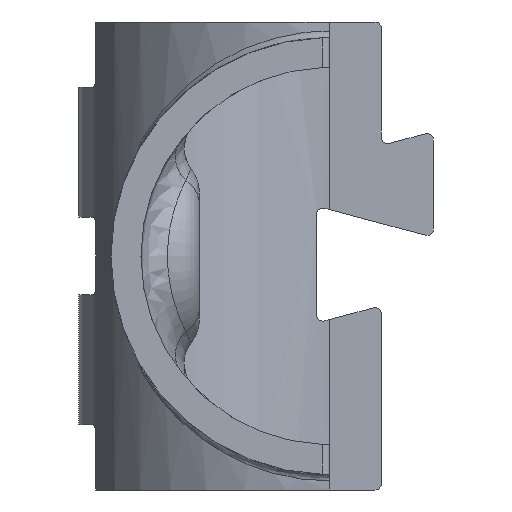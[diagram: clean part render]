
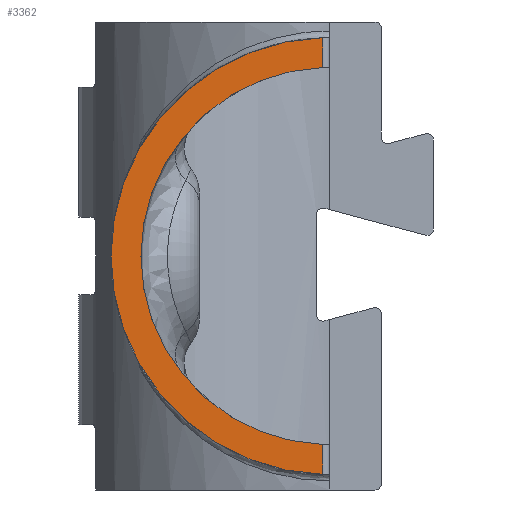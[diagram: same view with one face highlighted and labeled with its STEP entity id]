
A CAD part, left-side view. The second image highlights one B-rep face of the part: STEP entity #3362.
In plain terms, the highlighted planar face has unit normal (-1, 0, 0).
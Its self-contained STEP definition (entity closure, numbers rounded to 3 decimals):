
#173 = CARTESIAN_POINT ( 'NONE',  ( -63.2, 0.5, 18. ) ) ;
#229 = VECTOR ( 'NONE', #1173, 1000. ) ;
#419 = EDGE_CURVE ( 'NONE', #426, #1517, #1475, .T. ) ;
#426 = VERTEX_POINT ( 'NONE', #2716 ) ;
#453 = ORIENTED_EDGE ( 'NONE', *, *, #2254, .F. ) ;
#585 = ORIENTED_EDGE ( 'NONE', *, *, #1087, .F. ) ;
#595 = CARTESIAN_POINT ( 'NONE',  ( -63.2, 0., 18. ) ) ;
#712 = CARTESIAN_POINT ( 'NONE',  ( -63.2, 0.5, 18. ) ) ;
#823 = FACE_OUTER_BOUND ( 'NONE', #4165, .T. ) ;
#912 = VECTOR ( 'NONE', #2693, 1000. ) ;
#963 = CARTESIAN_POINT ( 'NONE',  ( -63.2, 0.5, 32.491 ) ) ;
#992 = ORIENTED_EDGE ( 'NONE', *, *, #2232, .T. ) ;
#996 = CIRCLE ( 'NONE', #1261, 16.8 ) ;
#1087 = EDGE_CURVE ( 'NONE', #3533, #1517, #1783, .T. ) ;
#1148 = CARTESIAN_POINT ( 'NONE',  ( -63.2, 0., 18. ) ) ;
#1173 = DIRECTION ( 'NONE',  ( 0., 0., 1. ) ) ;
#1254 = CARTESIAN_POINT ( 'NONE',  ( -63.2, 0.5, 34.793 ) ) ;
#1261 = AXIS2_PLACEMENT_3D ( 'NONE', #1148, #1521, #3802 ) ;
#1399 = DIRECTION ( 'NONE',  ( 0., 0., -1. ) ) ;
#1475 = LINE ( 'NONE', #712, #912 ) ;
#1517 = VERTEX_POINT ( 'NONE', #3134 ) ;
#1521 = DIRECTION ( 'NONE',  ( 1., 0., 0. ) ) ;
#1783 = CIRCLE ( 'NONE', #2638, 14.5 ) ;
#2232 = EDGE_CURVE ( 'NONE', #3533, #2368, #2635, .T. ) ;
#2254 = EDGE_CURVE ( 'NONE', #426, #2368, #996, .T. ) ;
#2368 = VERTEX_POINT ( 'NONE', #1254 ) ;
#2538 = DIRECTION ( 'NONE',  ( -1., 0., 0. ) ) ;
#2635 = LINE ( 'NONE', #173, #229 ) ;
#2638 = AXIS2_PLACEMENT_3D ( 'NONE', #595, #2538, #2836 ) ;
#2693 = DIRECTION ( 'NONE',  ( 0., 0., 1. ) ) ;
#2715 = PLANE ( 'NONE',  #3172 ) ;
#2716 = CARTESIAN_POINT ( 'NONE',  ( -63.2, 0.5, 1.207 ) ) ;
#2836 = DIRECTION ( 'NONE',  ( 0., 0., -1. ) ) ;
#2915 = ORIENTED_EDGE ( 'NONE', *, *, #419, .T. ) ;
#3040 = DIRECTION ( 'NONE',  ( 1., 0., 0. ) ) ;
#3070 = CARTESIAN_POINT ( 'NONE',  ( -63.2, 0., 18. ) ) ;
#3134 = CARTESIAN_POINT ( 'NONE',  ( -63.2, 0.5, 3.509 ) ) ;
#3172 = AXIS2_PLACEMENT_3D ( 'NONE', #3070, #3040, #1399 ) ;
#3362 = ADVANCED_FACE ( 'NONE', ( #823 ), #2715, .F. ) ;
#3533 = VERTEX_POINT ( 'NONE', #963 ) ;
#3802 = DIRECTION ( 'NONE',  ( 0., 0., -1. ) ) ;
#4165 = EDGE_LOOP ( 'NONE', ( #453, #2915, #585, #992 ) ) ;
